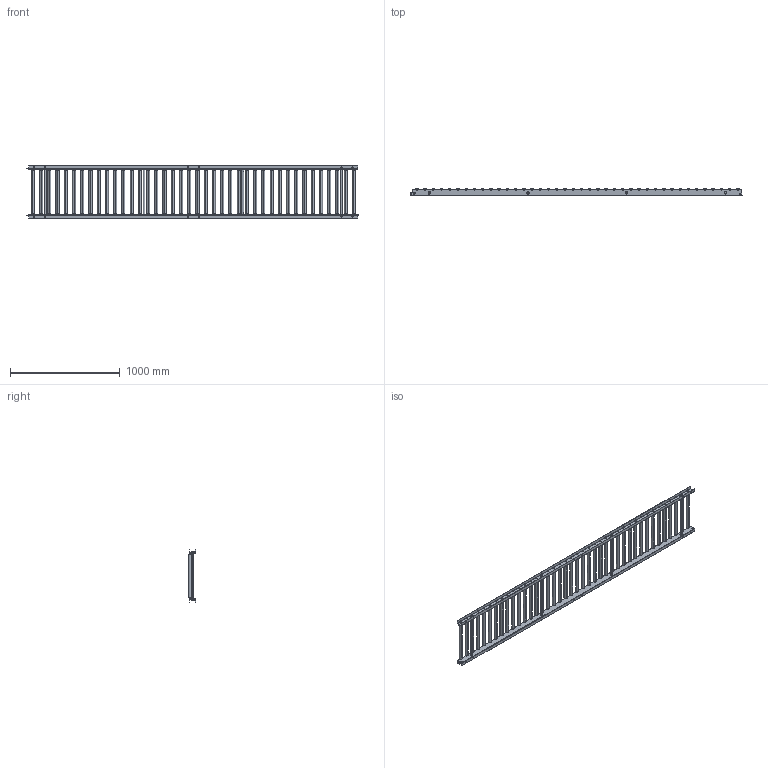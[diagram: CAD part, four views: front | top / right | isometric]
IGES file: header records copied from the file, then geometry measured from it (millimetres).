
Start section: SolidWorks IGES file using analytic representation for surfaces
Global section: file name: C:\Users\0656\Desktop\変換ツール\iges変換\RZ-2812P.igs; native system: SolidWorks 2023; preprocessor: SolidWorks 2023; author: 0656; date: 240220.201511; units: millimetre
Bounding box: 3025 x 66.3 x 475 mm (x, y, z)
Surface area: 4233518 mm2 (no closed solid volume)
Topology: 0 solids, 0 shells, 1560 faces, 29648 edges, 29648 vertices
Faces by surface type: revolution 800, bspline 760
